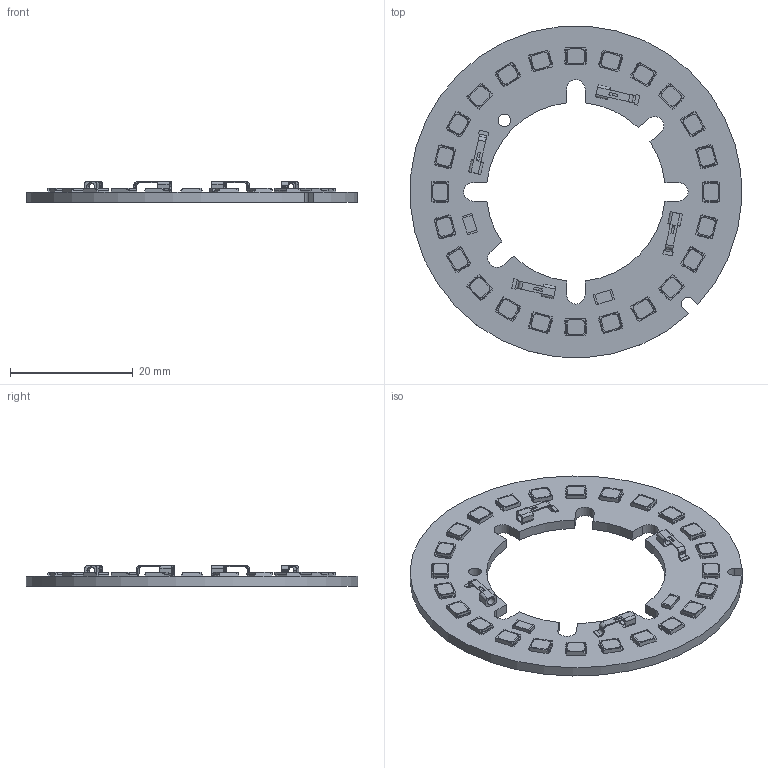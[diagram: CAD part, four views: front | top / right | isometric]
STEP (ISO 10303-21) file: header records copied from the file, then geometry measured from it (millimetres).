
FILE_DESCRIPTION(('Open CASCADE Model'),'2;1');
FILE_NAME('Open CASCADE Shape Model','2024-05-23T12:29:47',('Author'),( 'Open CASCADE'),'Open CASCADE STEP processor 7.5','Open CASCADE 7.5' ,'Unknown');
FILE_SCHEMA(('AUTOMOTIVE_DESIGN { 1 0 10303 214 1 1 1 1 }'));
Length unit declared in the file: millimetre
Products named in the file (45): PCB; Board; Open CASCADE STEP translator 7.5 4.1.1; R2; 7238578336; Mid_Body; Terminal; Open CASCADE STEP translator 6.8 1.2.1; Mark; R1; 7238578176; J4; avx-70-9296-001-017-006; J3; J2; J1; D24; LM28XB Rev; D23; D22; D21; D20; D19; D18; D17; D16; D15; D14; D13; D12; D11; D10; D9; D8; D7; D6; D5; D4; D3; D2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
Assembly tree (72 placements, depth 5):
  PCB
    Board
      Open CASCADE STEP translator 7.5 4.1.1
    R2
      7238578336
        Mid_Body
        Terminal  x2
          Open CASCADE STEP translator 6.8 1.2.1
        Mark
    R1
      7238578176
        Mid_Body
        Terminal  x2
          Open CASCADE STEP translator 6.8 1.2.1
        Mark
    J4
      avx-70-9296-001-017-006
    J3
      avx-70-9296-001-017-006
    J2
      avx-70-9296-001-017-006
    J1
      avx-70-9296-001-017-006
    D24
      LM28XB Rev
    D23
      LM28XB Rev
    D22
      LM28XB Rev
    D21
      LM28XB Rev
    D20
      LM28XB Rev
    D19
      LM28XB Rev
    D18
      LM28XB Rev
    D17
      LM28XB Rev
    D16
      LM28XB Rev
    D15
      LM28XB Rev
    D14
      LM28XB Rev
    D13
      LM28XB Rev
    D12
      LM28XB Rev
    D11
      LM28XB Rev
    D10
      LM28XB Rev
    D9
      LM28XB Rev
    D8
      LM28XB Rev
    D7
      LM28XB Rev
    D6
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Bounding box: 54.08 x 54.08 x 3.37 mm (x, y, z)
Volume: 2771.8 mm3; surface area: 4523.5 mm2
Topology: 37 solids, 37 shells, 1691 faces, 4923 edges, 3334 vertices
Faces by surface type: plane 1192, cylinder 499
Full cylindrical faces by diameter (mm): 2.05 x1
Entity records: 7951 total; most frequent: CARTESIAN_POINT 1488, ORIENTED_EDGE 1072, DIRECTION 1063, EDGE_CURVE 536, LINE 405, VECTOR 405, VERTEX_POINT 357, AXIS2_PLACEMENT_3D 329
